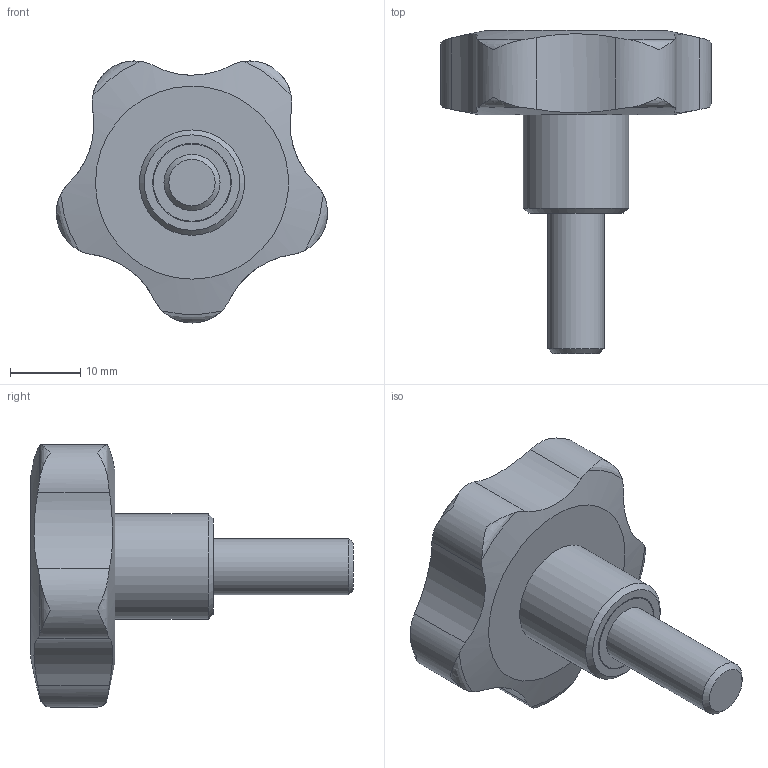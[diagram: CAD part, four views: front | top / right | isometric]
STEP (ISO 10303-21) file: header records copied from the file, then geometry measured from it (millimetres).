
FILE_DESCRIPTION( ( 'STEP AP203' ), '1' );
FILE_NAME( 'C:/Temp/Ganter_Step_05_03_2020/data/2_2/gn_5337_4/gn_5337_4_s/Star knob GN 5337.4-40-M8-20.stp', '2020-03-05T12:09:45', ( 'License CC BY-ND 4.0' ), ( 'CADENAS' ), ' ', 'PARTsolutions', ' ' );
FILE_SCHEMA( ( 'CONFIG_CONTROL_DESIGN' ) );
Length unit declared in the file: millimetre
Products named in the file (1): _Star knob GN 5337.4-40-M8-20
Bounding box: 38.62 x 46 x 37.33 mm (x, y, z)
Volume: 14477.7 mm3; surface area: 4354 mm2
Topology: 1 solids, 1 shells, 34 faces, 95 edges, 66 vertices
Faces by surface type: cylinder 14, torus 10, plane 5, cone 3, bspline 1, sphere 1
Full cylindrical faces by diameter (mm): 8 x1, 11 x1, 11.2 x1, 15 x1
Entity records: 1467 total; most frequent: CARTESIAN_POINT 679, ORIENTED_EDGE 164, DIRECTION 122, EDGE_CURVE 82, VERTEX_POINT 63, AXIS2_PLACEMENT_3D 56, B_SPLINE_CURVE_WITH_KNOTS 50, EDGE_LOOP 46
